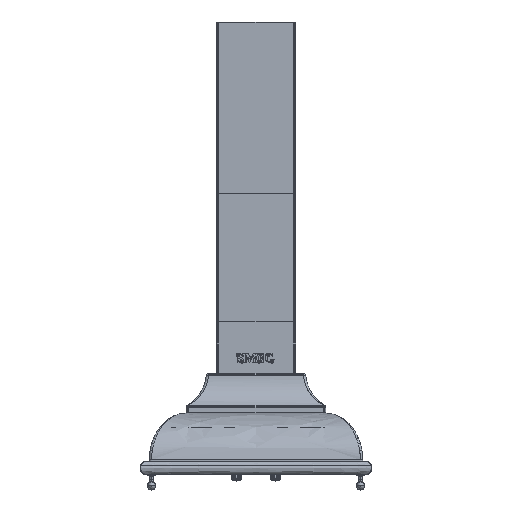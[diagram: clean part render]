
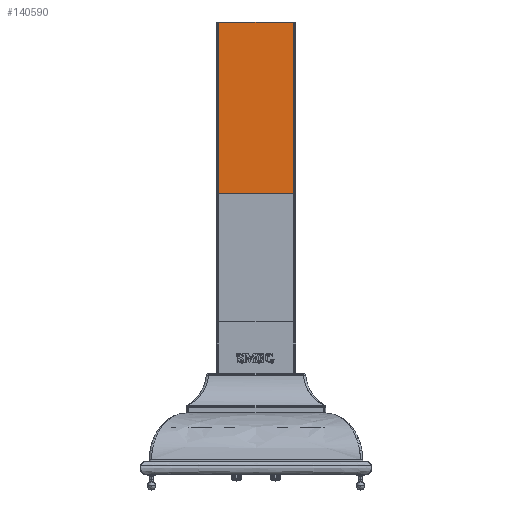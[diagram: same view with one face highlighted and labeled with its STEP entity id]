
A CAD part, front view. The second image highlights one B-rep face of the part: STEP entity #140590.
In plain terms, the highlighted planar face has unit normal (0, -1, 0).
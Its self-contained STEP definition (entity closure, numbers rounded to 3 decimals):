
#140577=AXIS2_PLACEMENT_3D('Plane Axis2P3D',#140574,#140575,#140576) ;
#139750=CARTESIAN_POINT('Vertex',(546.102,415.3,2811.996)) ;
#139753=CARTESIAN_POINT('Line Origine',(546.102,415.3,2116.996)) ;
#139757=CARTESIAN_POINT('Vertex',(546.102,415.3,2041.996)) ;
#139777=CARTESIAN_POINT('Line Origine',(450.002,415.3,2041.996)) ;
#139781=CARTESIAN_POINT('Vertex',(353.902,415.3,2041.996)) ;
#140523=CARTESIAN_POINT('Vertex',(353.902,415.3,2811.996)) ;
#140526=CARTESIAN_POINT('Line Origine',(450.002,415.3,2811.996)) ;
#140574=CARTESIAN_POINT('Axis2P3D Location',(450.002,415.3,2116.996)) ;
#140579=CARTESIAN_POINT('Line Origine',(353.902,415.3,2426.996)) ;
#139754=DIRECTION('Vector Direction',(0.,0.,-1.)) ;
#139778=DIRECTION('Vector Direction',(-1.,0.,0.)) ;
#140527=DIRECTION('Vector Direction',(1.,0.,0.)) ;
#140575=DIRECTION('Axis2P3D Direction',(0.,-1.,0.)) ;
#140576=DIRECTION('Axis2P3D XDirection',(1.,0.,0.)) ;
#140580=DIRECTION('Vector Direction',(0.,0.,1.)) ;
#139755=VECTOR('Line Direction',#139754,1.) ;
#139779=VECTOR('Line Direction',#139778,1.) ;
#140528=VECTOR('Line Direction',#140527,1.) ;
#140581=VECTOR('Line Direction',#140580,1.) ;
#140585=ORIENTED_EDGE('',*,*,#139759,.F.) ;
#140586=ORIENTED_EDGE('',*,*,#140530,.F.) ;
#140587=ORIENTED_EDGE('',*,*,#140583,.F.) ;
#140588=ORIENTED_EDGE('',*,*,#139783,.F.) ;
#140590=ADVANCED_FACE('MANIFOLD_SOLID_BREP #181621',(#140589),#140578,.T.) ;
#139759=EDGE_CURVE('',#139751,#139758,#139756,.T.) ;
#139783=EDGE_CURVE('',#139758,#139782,#139780,.T.) ;
#140530=EDGE_CURVE('',#140524,#139751,#140529,.T.) ;
#140583=EDGE_CURVE('',#139782,#140524,#140582,.T.) ;
#140584=EDGE_LOOP('',(#140585,#140586,#140587,#140588)) ;
#140589=FACE_OUTER_BOUND('',#140584,.T.) ;
#139756=LINE('Line',#139753,#139755) ;
#139780=LINE('Line',#139777,#139779) ;
#140529=LINE('Line',#140526,#140528) ;
#140582=LINE('Line',#140579,#140581) ;
#140578=PLANE('',#140577) ;
#139751=VERTEX_POINT('',#139750) ;
#139758=VERTEX_POINT('',#139757) ;
#139782=VERTEX_POINT('',#139781) ;
#140524=VERTEX_POINT('',#140523) ;
